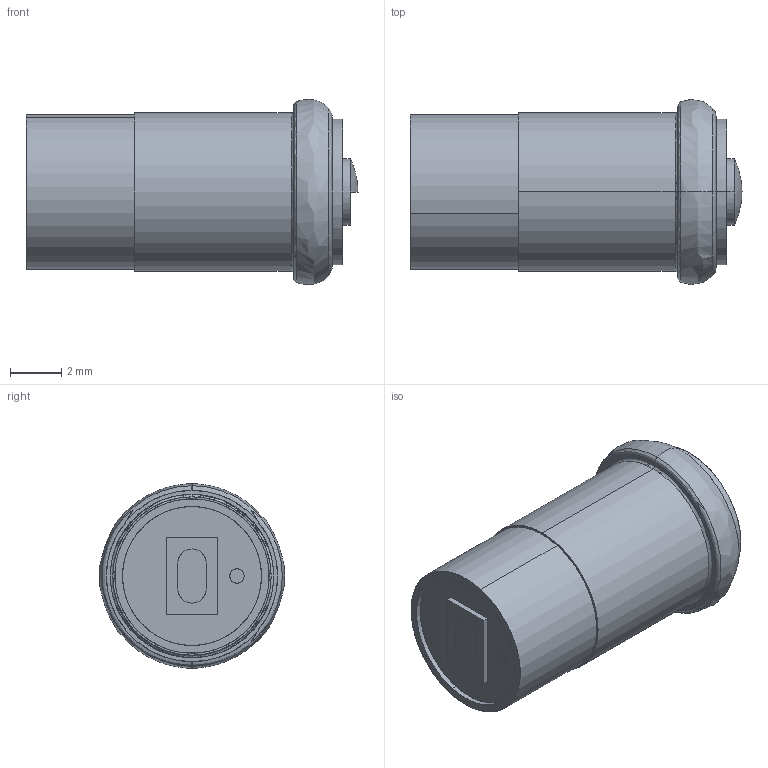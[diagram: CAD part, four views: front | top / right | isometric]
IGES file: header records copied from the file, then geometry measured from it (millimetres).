
Start section: SolidWorks IGES file using analytic representation for surfaces
Global section: file name: G:\Marl\DESIGN\Paul Robson\STEP-IGES FILES\236 Series\236 Series.IGS; native system: SolidWorks 2016; preprocessor: SolidWorks 2016; author: Paulr; date: 160804.095647; units: millimetre
Bounding box: 12.9 x 7.2 x 7.2 mm (x, y, z)
Surface area: 712.1 mm2 (no closed solid volume)
Topology: 0 solids, 0 shells, 59 faces, 892 edges, 891 vertices
Faces by surface type: revolution 30, bspline 29
